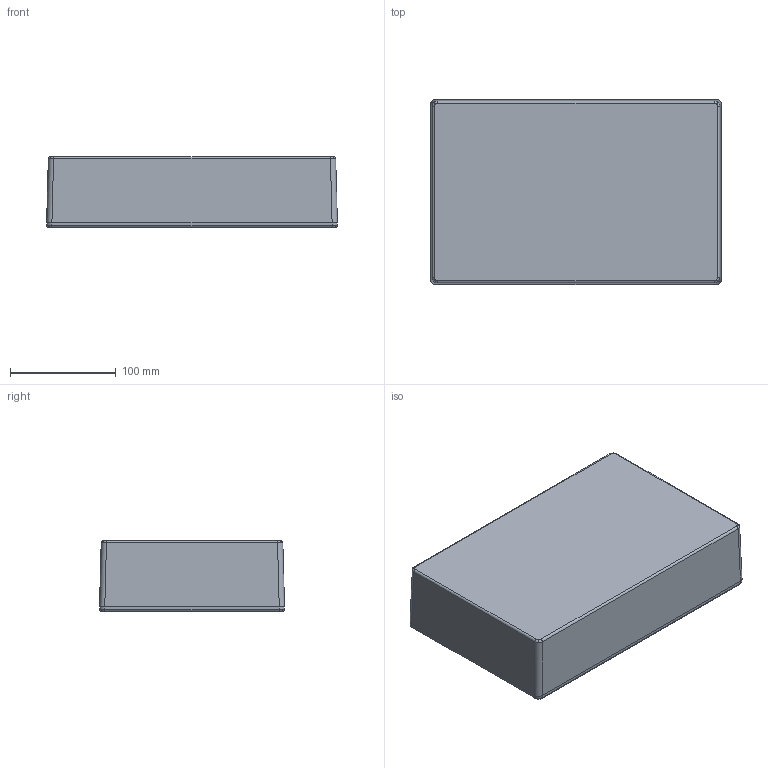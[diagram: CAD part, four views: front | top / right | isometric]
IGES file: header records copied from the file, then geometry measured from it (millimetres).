
Global section: file name: 1550J.iam; native system: Autodesk Inventor 2014; preprocessor: unknown; author: fwarzocha; date: 20141029.101342; units: millimetre
Bounding box: 275 x 175 x 66.6 mm (x, y, z)
Volume: 393469.1 mm3; surface area: 305212 mm2
Topology: 8 solids, 8 shells, 1019 faces, 2750 edges, 1790 vertices
Faces by surface type: plane 391, bspline 356, revolution 184, cylinder 46, cone 42
Full cylindrical faces by diameter (mm): 3.43 x6
